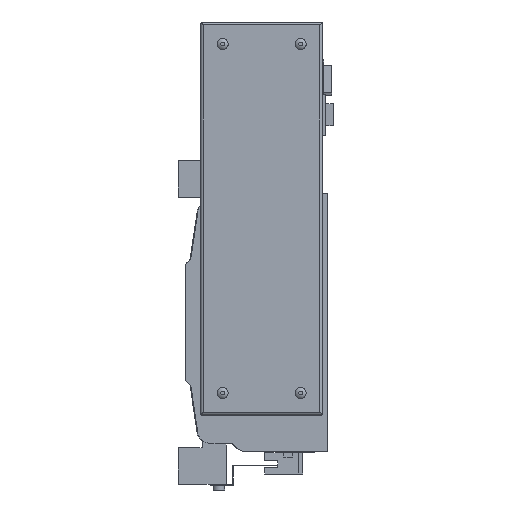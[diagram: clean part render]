
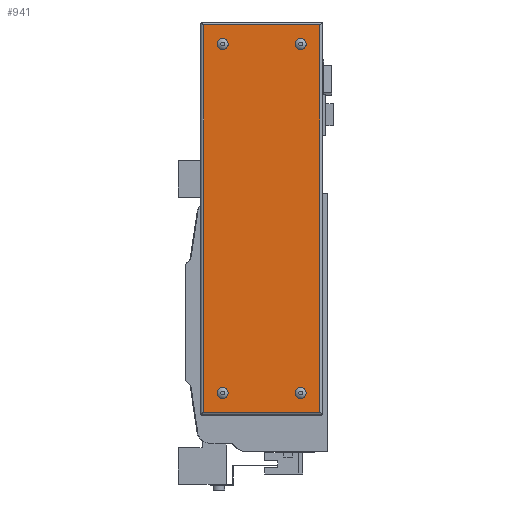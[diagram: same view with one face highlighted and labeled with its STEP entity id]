
A CAD part, left-side view. The second image highlights one B-rep face of the part: STEP entity #941.
In plain terms, the highlighted planar face has unit normal (-1, 0, 0).
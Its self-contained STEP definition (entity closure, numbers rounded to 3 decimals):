
#941 = ADVANCED_FACE( '', ( #2248, #2249, #2250, #2251, #2252 ), #2253, .F. );
#2248 = FACE_BOUND( '', #4111, .T. );
#2249 = FACE_BOUND( '', #4112, .T. );
#2250 = FACE_BOUND( '', #4113, .T. );
#2251 = FACE_BOUND( '', #4114, .T. );
#2252 = FACE_OUTER_BOUND( '', #4115, .T. );
#2253 = PLANE( '', #4116 );
#4111 = EDGE_LOOP( '', ( #6605 ) );
#4112 = EDGE_LOOP( '', ( #6606 ) );
#4113 = EDGE_LOOP( '', ( #6607 ) );
#4114 = EDGE_LOOP( '', ( #6608 ) );
#4115 = EDGE_LOOP( '', ( #6609, #6610, #6611, #6612 ) );
#4116 = AXIS2_PLACEMENT_3D( '', #6613, #6614, #6615 );
#6605 = ORIENTED_EDGE( '', *, *, #11242, .F. );
#6606 = ORIENTED_EDGE( '', *, *, #11243, .F. );
#6607 = ORIENTED_EDGE( '', *, *, #11244, .F. );
#6608 = ORIENTED_EDGE( '', *, *, #10829, .F. );
#6609 = ORIENTED_EDGE( '', *, *, #11245, .F. );
#6610 = ORIENTED_EDGE( '', *, *, #11246, .F. );
#6611 = ORIENTED_EDGE( '', *, *, #11247, .T. );
#6612 = ORIENTED_EDGE( '', *, *, #11248, .T. );
#6613 = CARTESIAN_POINT( '', ( -66., 0., 0. ) );
#6614 = DIRECTION( '', ( 1., 0., 0. ) );
#6615 = DIRECTION( '', ( 0., 0., -1. ) );
#10829 = EDGE_CURVE( '', #12923, #12923, #12924, .F. );
#11242 = EDGE_CURVE( '', #13629, #13629, #13630, .F. );
#11243 = EDGE_CURVE( '', #13631, #13631, #13632, .F. );
#11244 = EDGE_CURVE( '', #13633, #13633, #13634, .F. );
#11245 = EDGE_CURVE( '', #13635, #13636, #13637, .T. );
#11246 = EDGE_CURVE( '', #13638, #13635, #13639, .T. );
#11247 = EDGE_CURVE( '', #13638, #13640, #13641, .T. );
#11248 = EDGE_CURVE( '', #13640, #13636, #13642, .T. );
#12923 = VERTEX_POINT( '', #15959 );
#12924 = CIRCLE( '', #15960, 3.7 );
#13629 = VERTEX_POINT( '', #16951 );
#13630 = CIRCLE( '', #16952, 3.7 );
#13631 = VERTEX_POINT( '', #16953 );
#13632 = CIRCLE( '', #16954, 3.7 );
#13633 = VERTEX_POINT( '', #16955 );
#13634 = CIRCLE( '', #16956, 3.7 );
#13635 = VERTEX_POINT( '', #16957 );
#13636 = VERTEX_POINT( '', #16958 );
#13637 = LINE( '', #16959, #16960 );
#13638 = VERTEX_POINT( '', #16961 );
#13639 = LINE( '', #16962, #16963 );
#13640 = VERTEX_POINT( '', #16964 );
#13641 = LINE( '', #16965, #16966 );
#13642 = LINE( '', #16967, #16968 );
#15959 = CARTESIAN_POINT( '', ( -66., 71.5, -51.7 ) );
#15960 = AXIS2_PLACEMENT_3D( '', #19651, #19652, #19653 );
#16951 = CARTESIAN_POINT( '', ( -66., 18.5, 185.3 ) );
#16952 = AXIS2_PLACEMENT_3D( '', #20111, #20112, #20113 );
#16953 = CARTESIAN_POINT( '', ( -66., 18.5, -51.7 ) );
#16954 = AXIS2_PLACEMENT_3D( '', #20114, #20115, #20116 );
#16955 = CARTESIAN_POINT( '', ( -66., 71.5, 185.3 ) );
#16956 = AXIS2_PLACEMENT_3D( '', #20117, #20118, #20119 );
#16957 = CARTESIAN_POINT( '', ( -66., 5.5, 202. ) );
#16958 = CARTESIAN_POINT( '', ( -66., 5.5, -61. ) );
#16959 = CARTESIAN_POINT( '', ( -66., 5.5, 267. ) );
#16960 = VECTOR( '', #20120, 1000. );
#16961 = CARTESIAN_POINT( '', ( -66., 84.5, 202. ) );
#16962 = CARTESIAN_POINT( '', ( -66., 267., 202. ) );
#16963 = VECTOR( '', #20121, 1000. );
#16964 = CARTESIAN_POINT( '', ( -66., 84.5, -61. ) );
#16965 = CARTESIAN_POINT( '', ( -66., 84.5, 267. ) );
#16966 = VECTOR( '', #20122, 1000. );
#16967 = CARTESIAN_POINT( '', ( -66., 267., -61. ) );
#16968 = VECTOR( '', #20123, 1000. );
#19651 = CARTESIAN_POINT( '', ( -66., 71.5, -48. ) );
#19652 = DIRECTION( '', ( 1., 0., 0. ) );
#19653 = DIRECTION( '', ( 0., 0., -1. ) );
#20111 = CARTESIAN_POINT( '', ( -66., 18.5, 189. ) );
#20112 = DIRECTION( '', ( 1., 0., 0. ) );
#20113 = DIRECTION( '', ( 0., 0., -1. ) );
#20114 = CARTESIAN_POINT( '', ( -66., 18.5, -48. ) );
#20115 = DIRECTION( '', ( 1., 0., 0. ) );
#20116 = DIRECTION( '', ( 0., 0., -1. ) );
#20117 = CARTESIAN_POINT( '', ( -66., 71.5, 189. ) );
#20118 = DIRECTION( '', ( 1., 0., 0. ) );
#20119 = DIRECTION( '', ( 0., 0., -1. ) );
#20120 = DIRECTION( '', ( 0., 0., -1. ) );
#20121 = DIRECTION( '', ( 0., -1., 0. ) );
#20122 = DIRECTION( '', ( 0., 0., -1. ) );
#20123 = DIRECTION( '', ( 0., -1., 0. ) );
